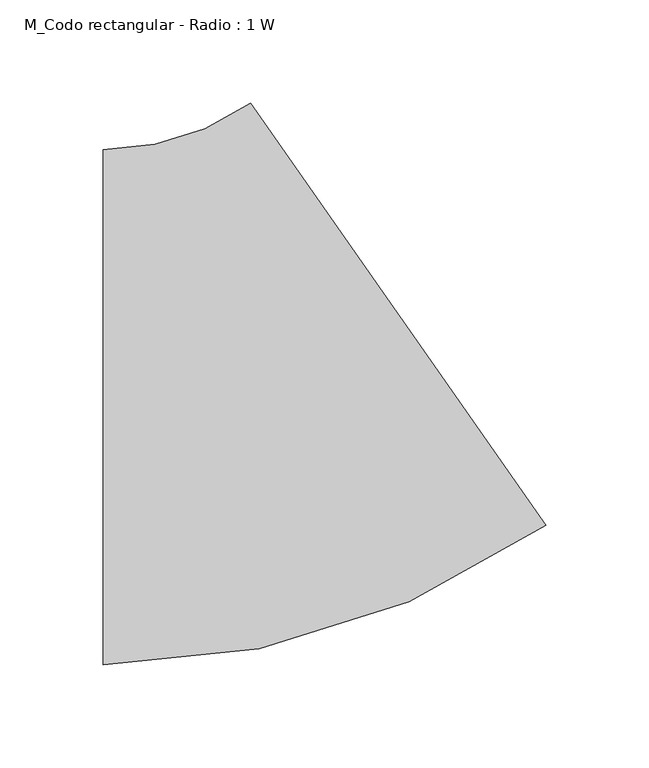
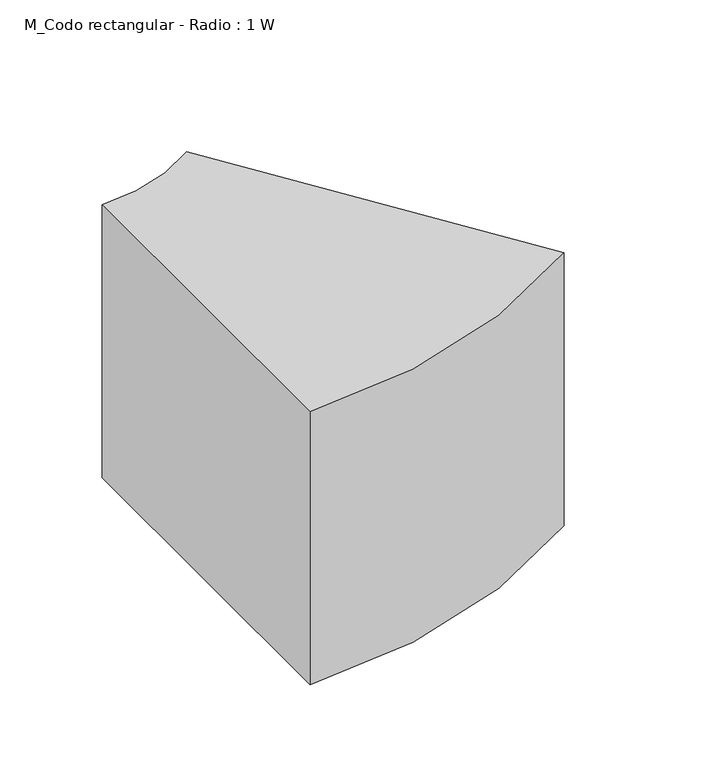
"""IFC4 building model written with IfcOpenShell, lengths in millimetres: duct fitting geometry, M_Codo rectangular - Radio : 1 W."""

from ifc_helpers import new_model, si_unit, point, frame, frame_2d, origin, place, context, project, spatial, polyline, circle_curve, trimmed, segment, composite_curve, outline, extrude, source, transform, mapped, element, save


def m_codo_rectangular_radio_1_w_096c9c3c(model_context):
    return source(origin(), model_context, "Body", "SweptSolid", [
        extrude(outline(composite_curve([segment(trimmed(circle_curve(frame_2d((-78.8246972, 250.0)), 375.0), [point((136.2664664, -57.1820166))], [point((-78.8246972, -125.0))], False, "CARTESIAN"), True, "CONTINUOUS"), segment(polyline([(-78.8246972, -125.0), (-78.8246972, 125.0)]), True, "CONTINUOUS"), segment(trimmed(circle_curve(frame_2d((-78.8246972, 250.0)), 125.0), [point((-78.8246972, 125.0))], [point((-7.1276427, 147.6059945))], True, "CARTESIAN"), True, "CONTINUOUS"), segment(polyline([(-7.1276427, 147.6059945), (136.2664664, -57.1820166)]), True, "CONTINUOUS")], self_intersect=False)), frame((0.0, 0.0, -100.0), z_axis=(0.0, 0.0, 1.0), x_axis=(1.0, 0.0, 0.0)), (0.0, 0.0, 1.0), 200.0),
    ])


if __name__ == "__main__":
    model = new_model("IFC4")
    model_context = context("Model", 3, world=origin())
    ifc_project = project(units=[si_unit("LENGTHUNIT", "METRE", prefix="MILLI")], contexts=[model_context])
    site = spatial("IfcSite", under=ifc_project)
    building = spatial("IfcBuilding", under=site)
    placement = place(None, origin())
    m_codo_rectangular_radio_1_w_shape = m_codo_rectangular_radio_1_w_096c9c3c(model_context)
    element("IfcDuctFitting", 1, ObjectType="M_Codo rectangular - Radio : 1 W", at=placement, inside=building, context=model_context, shape_type="MappedRepresentation", body=[
        mapped(m_codo_rectangular_radio_1_w_shape, transform((0.0, 0.0, 0.0), x_axis=(1.0, 0.0, 0.0), y_axis=(0.0, 1.0, 0.0), z_axis=(0.0, 0.0, 1.0))),
    ])
    save(model, "model.ifc")
